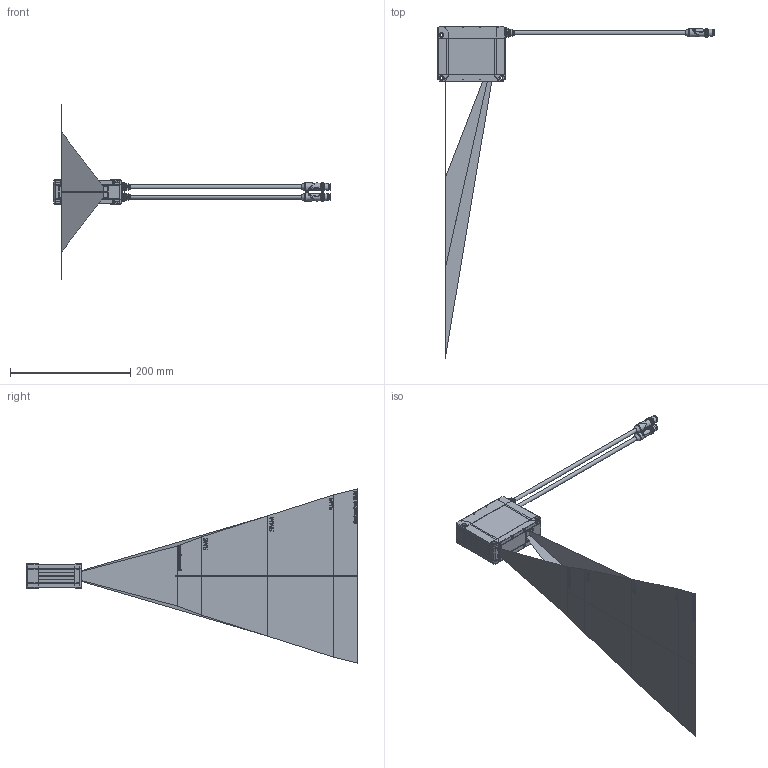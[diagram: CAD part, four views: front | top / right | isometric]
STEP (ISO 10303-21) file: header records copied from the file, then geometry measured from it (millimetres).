
FILE_DESCRIPTION (( 'STEP AP214' ), '1' );
FILE_NAME ('LLT30xx-200-RT.STEP', '2026-07-22T08:29:29', ( '' ), ( '' ), 'SwSTEP 2.0', 'SolidWorks 2024', '' );
FILE_SCHEMA (( 'AUTOMOTIVE_DESIGN' ));
Length unit declared in the file: millimetre
Products named in the file (1): LLT30xx-200-RT
Bounding box: 459.4 x 552 x 290 mm (x, y, z)
Volume: 431378.7 mm3; surface area: 296864.5 mm2
Topology: 3 solids, 18 shells, 4272 faces, 9764 edges, 5669 vertices
Faces by surface type: plane 2355, cone 940, cylinder 506, bspline 440, torus 28, sphere 3
Full cylindrical faces by diameter (mm): 0.6 x8, 0.7 x12, 2.4 x3, 2.8 x3, 3 x3, 3.8 x16, 4.2 x3, 4.4 x16, 6.8 x4, 8 x4, 8.35 x2, 8.4 x4, 9.2 x2, 9.4 x2, 9.5 x2, 10.268 x2, 10.5 x2, 10.7 x2, 10.75 x2, 10.8 x2, 11.2 x2, 12 x2, 13 x2, 13.5 x2, 15 x2
Entity records: 185362 total; most frequent: CARTESIAN_POINT 51147, ORIENTED_EDGE 18942, DIRECTION 15895, EDGE_CURVE 9471, AXIS2_PLACEMENT_3D 5782, VERTEX_POINT 5600, EDGE_LOOP 4665, FACE_OUTER_BOUND 4410
